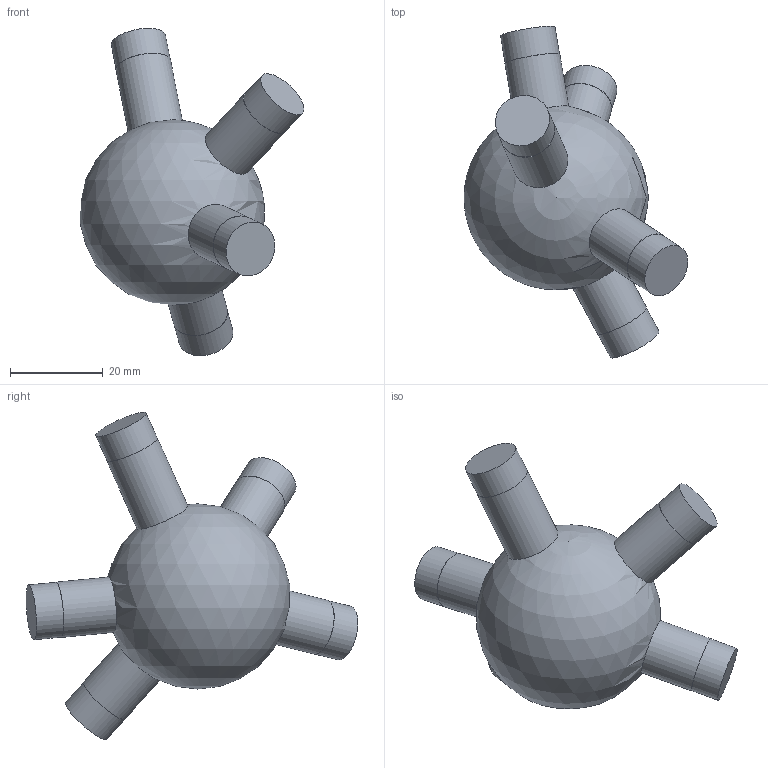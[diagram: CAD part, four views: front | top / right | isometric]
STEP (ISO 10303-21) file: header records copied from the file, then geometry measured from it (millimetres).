
FILE_DESCRIPTION(('Open CASCADE Model'),'2;1');
FILE_NAME('Open CASCADE Shape Model','2026-10-21T12:47:57',('Author'),( 'Open CASCADE'),'Open CASCADE STEP processor 7.9','Open CASCADE 7.9' ,'Unknown');
FILE_SCHEMA(('AUTOMOTIVE_DESIGN { 1 0 10303 214 1 1 1 1 }'));
Length unit declared in the file: millimetre
Products named in the file (1): Open CASCADE STEP translator 7.9 133
Bounding box: 48.34 x 71.72 x 70.72 mm (x, y, z)
Volume: 43881.9 mm3; surface area: 8567.2 mm2
Topology: 1 solids, 1 shells, 21 faces, 33 edges, 22 vertices
Faces by surface type: cylinder 10, plane 10, sphere 1
Full cylindrical faces by diameter (mm): 11.9 x5, 12 x5
Entity records: 1213 total; most frequent: CARTESIAN_POINT 488, DIRECTION 149, ORIENTED_EDGE 60, PCURVE 60, DEFINITIONAL_REPRESENTATION 60, LINE 50, VECTOR 50, AXIS2_PLACEMENT_3D 42
